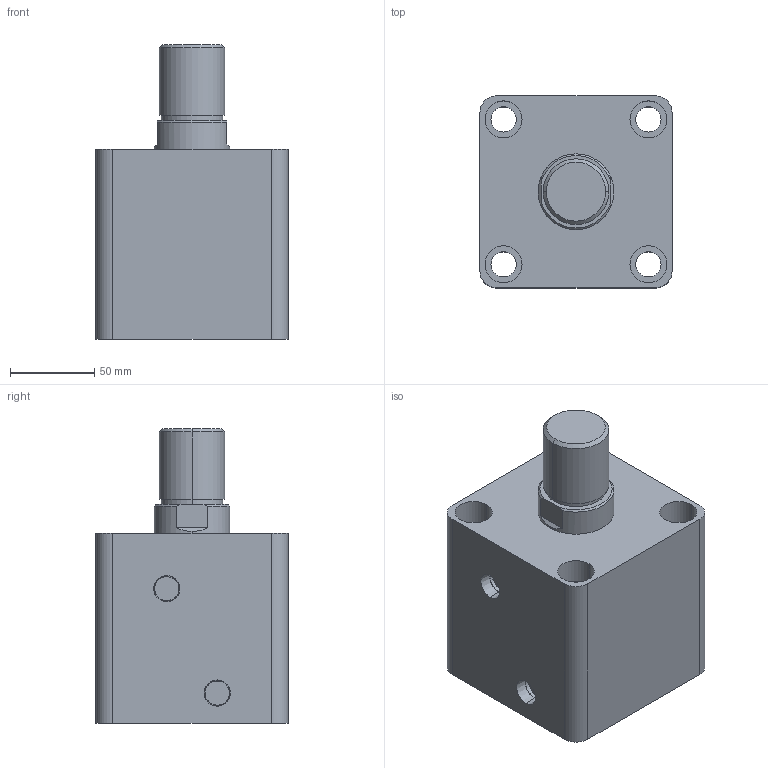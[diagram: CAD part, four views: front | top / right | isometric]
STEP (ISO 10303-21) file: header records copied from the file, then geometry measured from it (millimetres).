
FILE_DESCRIPTION (( 'STEP AP203' ), '1' );
FILE_NAME ('HTB-SD80-35W.STEP', '2019-10-07T08:19:25', ( '微软用户' ), ( '微软中国' ), 'SwSTEP 2.0', 'SolidWorks 2012', '' );
FILE_SCHEMA (( 'CONFIG_CONTROL_DESIGN' ));
Length unit declared in the file: millimetre
Products named in the file (3): HTB-SD80-35W; HTB-SD80-35W活塞杆; HTB-SD80-35掛极
Assembly tree (2 placements, depth 2):
  HTB-SD80-35W
    HTB-SD80-35掛极
    HTB-SD80-35W活塞杆
Bounding box: 114 x 114 x 175 mm (x, y, z)
Volume: 1309848.7 mm3; surface area: 161881.3 mm2
Topology: 2 solids, 2 shells, 87 faces, 190 edges, 124 vertices
Faces by surface type: cylinder 44, plane 29, cone 8, torus 6
Entity records: 2761 total; most frequent: DIRECTION 478, CARTESIAN_POINT 434, ORIENTED_EDGE 380, AXIS2_PLACEMENT_3D 204, EDGE_CURVE 190, VERTEX_POINT 124, EDGE_LOOP 112, CIRCLE 112
